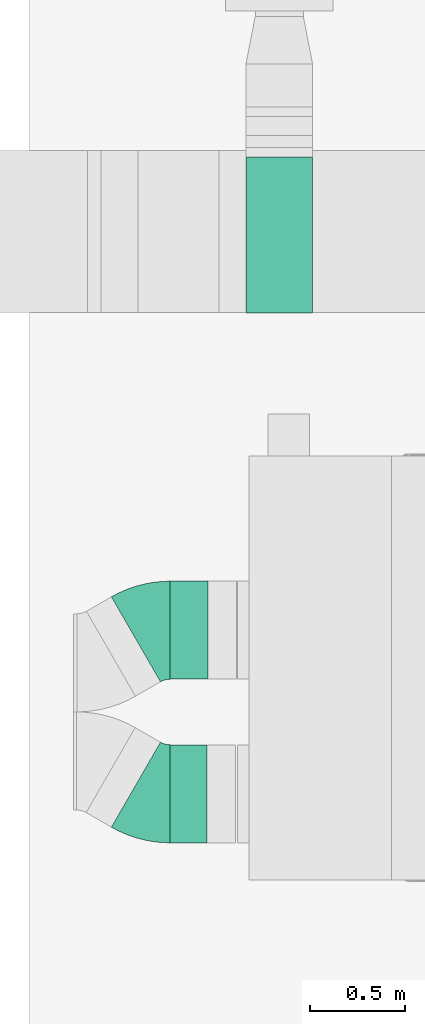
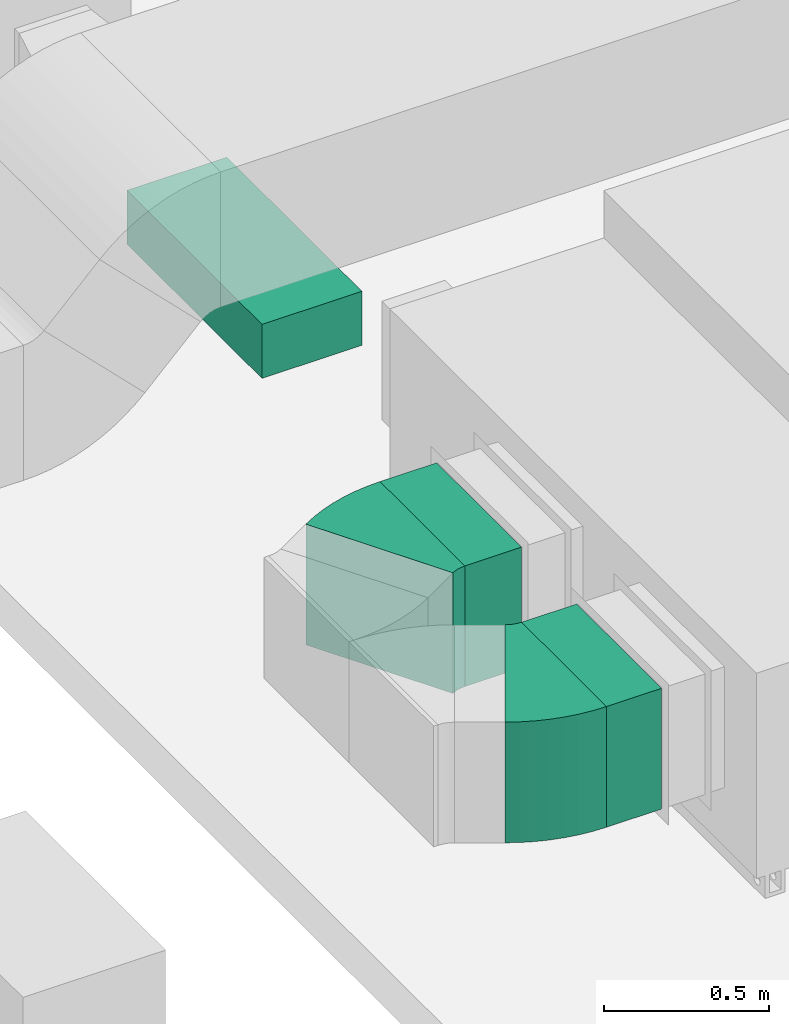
# One storey, part 5 of 10: 3 flow segments, 2 flow fittings.
"""IFC2X3 building model written with IfcOpenShell, lengths in millimetres."""

from ifc_helpers import new_model, entity, si_unit, converted_unit, derived_unit, direction, frame, frame_2d, origin, origin_2d_with_axis, place, context, subcontext, project, spatial, polyline, circle_curve, parameter, trimmed, segment, composite_curve, rectangle, outline, extrude, source, transform, mapped, material, type_object, type_shapes, element, save


model = new_model("IFC2X3")

# Units and contexts
model_context = context("Model", 3, precision=0.01, world=origin(), true_north=direction((6.123233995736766e-17, 1.0)))
body_context = subcontext(model_context, "Body", "Model", "MODEL_VIEW")
ifc_project = project(units=[si_unit("LENGTHUNIT", "METRE", prefix="MILLI"), converted_unit("PLANEANGLEUNIT", "DEGREE", entity("IfcPlaneAngleMeasure", 0.017453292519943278), si_unit("PLANEANGLEUNIT", "RADIAN"), dimensions=[0, 0, 0, 0, 0, 0, 0]), si_unit("AREAUNIT", "SQUARE_METRE"), derived_unit("THERMALTRANSMITTANCEUNIT", [(si_unit("MASSUNIT", "GRAM", prefix="KILO"), 1), (si_unit("THERMODYNAMICTEMPERATUREUNIT", "KELVIN"), -1), (si_unit("TIMEUNIT", "SECOND"), -3)])], contexts=[model_context])

# Site, building, storey
site_placement = place(None, origin())
site = spatial("IfcSite", under=ifc_project, at=site_placement, Name="Default", CompositionType="ELEMENT")
building_placement = place(site_placement, origin())
building = spatial("IfcBuilding", under=site, at=building_placement, Name="Praça Pedro II, 1301 - Centro (Sul), Teresina - PI, 64001-100", CompositionType="ELEMENT")
storey_placement = place(building_placement, frame((0.0, 0.0, 9040.0)))
storey = spatial("IfcBuildingStorey", under=building, at=storey_placement, Name="LAJE TÉCNICA", CompositionType="ELEMENT", Elevation=9040.0)

# Flow segments
duct_segment_type_1 = type_object("IfcDuctSegmentType", Name="Duto retangular:Raios cotovelos / tês", PredefinedType="NOTDEFINED")
flow_segment_1_placement = place(storey_placement, origin())
element("IfcFlowSegment", 1, at=flow_segment_1_placement, inside=storey, type_object=duct_segment_type_1, Name="Duto retangular:Raios cotovelos / tês", ObjectType="Duto retangular:Raios cotovelos / tês", context=body_context, shape_type="SweptSolid", body=[
    extrude(rectangle(XDim=198.47053655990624, YDim=515.0000000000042, at=origin_2d_with_axis()), frame((36044.52926644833, -60374.283064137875, 1382.5558825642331)), (0.0, 0.0, 1.0), 446.999999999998),
])
flow_segment_2_placement = place(storey_placement, origin())
element("IfcFlowSegment", 2, at=flow_segment_2_placement, inside=storey, type_object=duct_segment_type_1, Name="Duto retangular:Raios cotovelos / tês", ObjectType="Duto retangular:Raios cotovelos / tês", context=body_context, shape_type="SweptSolid", body=[
    extrude(rectangle(XDim=193.24717660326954, YDim=515.0000000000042, at=frame_2d((0.0, 8.640199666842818e-12), x_axis=(1.0, 0.0))), frame((36041.91758647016, -61233.283064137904, 1382.5558825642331)), (0.0, 0.0, 1.0), 446.999999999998),
])
duct_segment_type_2 = type_object("IfcDuctSegmentType", Name="Duto retangular:Raios cotovelos / torneiras", PredefinedType="NOTDEFINED")
flow_segment_3_placement = place(storey_placement, origin())
element("IfcFlowSegment", 3, at=flow_segment_3_placement, inside=storey, type_object=duct_segment_type_2, Name="Duto retangular:Raios cotovelos / torneiras", ObjectType="Duto retangular:Raios cotovelos / torneiras", context=body_context, shape_type="SweptSolid", body=[
    extrude(rectangle(XDim=819.4101615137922, YDim=349.9999999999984, at=frame_2d((0.0, -2.1600499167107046e-12), x_axis=(1.0, 0.0))), frame((36519.070668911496, -58300.44606872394, 1218.9536266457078), z_axis=(0.0, 0.0, 1.0), x_axis=(0.0, 1.0, 0.0)), (0.0, 0.0, 1.0), 200.0000000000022),
])

# Flow fittings
ifc_material = material(Name="<Unnamed>")
duct_fitting_type = type_object("IfcDuctFittingType", Name="BTS vanes:1 Splitter Vanes", PredefinedType="NOTDEFINED", material=ifc_material)
shared_shape = source(origin(), body_context, "Body", "SweptSolid", [
    extrude(outline(composite_curve([segment(polyline([(-281.4479590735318, -89.37500000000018), (233.55204092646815, -89.37500000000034)]), True, "CONTINUOUS"), segment(trimmed(circle_curve(frame_2d((333.5520409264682, -89.37500000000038), x_axis=(-0.8660254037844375, 0.5000000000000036)), 100.0), [parameter(0.0)], [parameter(30.0000000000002)], True, "PARAMETER"), False, "CONTINUOUS"), segment(polyline([(246.94950054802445, -39.3750000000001), (-199.05358240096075, 218.1250000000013)]), True, "CONTINUOUS"), segment(trimmed(circle_curve(frame_2d((333.5520409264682, -89.37500000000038), x_axis=(-0.8660254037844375, 0.5000000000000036)), 615.0), [parameter(0.0)], [parameter(30.0000000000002)], True, "PARAMETER"), True, "CONTINUOUS")], self_intersect=False)), frame((-6.416836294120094, 23.947959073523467, -223.50000000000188), z_axis=(0.0, 0.0, 1.0), x_axis=(-0.5000000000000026, 0.8660254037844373, 0.0)), (0.0, 0.0, 1.0), 446.99999999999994),
    extrude(outline(composite_curve([segment(polyline([(-26.353758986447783, -29.605263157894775), (10.488346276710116, -29.60526315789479)]), True, "CONTINUOUS"), segment(trimmed(circle_curve(frame_2d((110.4883462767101, -29.605263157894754), x_axis=(-0.8660254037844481, 0.5)), 100.0), [parameter(0.0)], [parameter(30.0000000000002)], True, "PARAMETER"), False, "CONTINUOUS"), segment(polyline([(23.88580589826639, 20.394736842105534), (-8.020393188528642, 38.81578947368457)]), True, "CONTINUOUS"), segment(trimmed(circle_curve(frame_2d((110.4883462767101, -29.605263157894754), x_axis=(-0.8660254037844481, 0.5)), 136.8421052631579), [parameter(0.0)], [parameter(30.0000000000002)], True, "PARAMETER"), True, "CONTINUOUS")], self_intersect=False)), frame((-66.18657313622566, 247.0116537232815, -223.50000000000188), z_axis=(0.0, 0.0, 1.0), x_axis=(-0.5000000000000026, 0.8660254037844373, 0.0)), (0.0, 0.0, 1.0), 446.99999999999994),
])
type_shapes(duct_fitting_type, [shared_shape])
for number, where, z_axis, x_axis, name in (
    (4, (35849.50216187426, -60374.283064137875, 1606.0558825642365), (0.0, 0.0, 1.0), (-1.0, 0.0, 0.0), "BTS vanes:1 Splitter Vanes"),
    (5, (35849.5021618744, -61233.28306413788, 1606.0558825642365), (0.0, 0.0, 1.0), (0.8660254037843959, -0.5000000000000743, 0.0), "BTS vanes:1 Splitter Vanes"),
):
    element("IfcFlowFitting", number, at=place(storey_placement, frame(where, z_axis=z_axis, x_axis=x_axis)), inside=storey, type_object=duct_fitting_type, material=ifc_material, Name=name, ObjectType="BTS vanes:1 Splitter Vanes", context=body_context, shape_type="MappedRepresentation", body=[
        mapped(shared_shape, transform((0.0, 0.0, 0.0), scale=1.0)),
    ])

save(model, "model.ifc")
